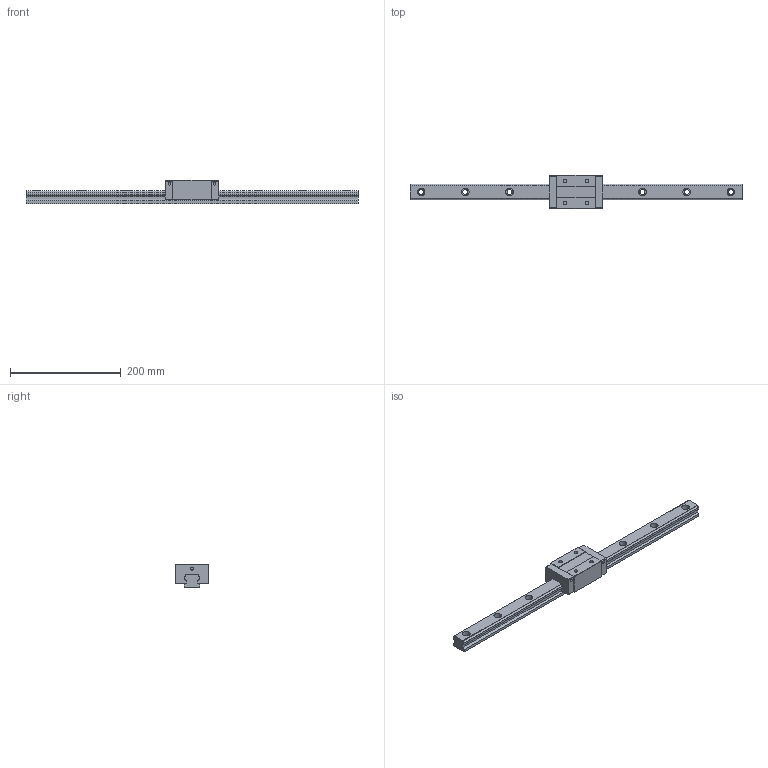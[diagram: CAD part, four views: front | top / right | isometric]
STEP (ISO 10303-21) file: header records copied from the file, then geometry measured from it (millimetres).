
FILE_DESCRIPTION (( 'STEP AP203' ), '1' );
FILE_NAME ('TRS30VN-XN.STEP', '2024-06-12T08:27:03', ( '' ), ( '' ), 'SwSTEP 2.0', 'SolidWorks 2022', '' );
FILE_SCHEMA (( 'CONFIG_CONTROL_DESIGN' ));
Length unit declared in the file: millimetre
Products named in the file (1): TRS30VN-XN
Bounding box: 600 x 60 x 42 mm (x, y, z)
Volume: 482241.7 mm3; surface area: 96236.4 mm2
Topology: 2 solids, 2 shells, 178 faces, 464 edges, 308 vertices
Faces by surface type: plane 90, cylinder 88
Entity records: 5619 total; most frequent: DIRECTION 998, CARTESIAN_POINT 951, ORIENTED_EDGE 928, EDGE_CURVE 464, AXIS2_PLACEMENT_3D 355, VERTEX_POINT 308, VECTOR 288, LINE 288
